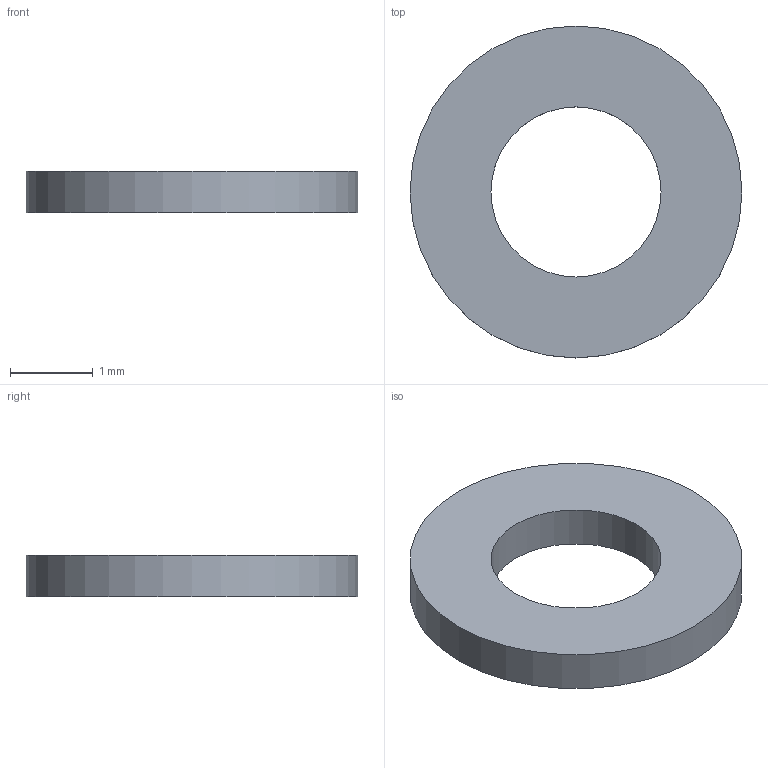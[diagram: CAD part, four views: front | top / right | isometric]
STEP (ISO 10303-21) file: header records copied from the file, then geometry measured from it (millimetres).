
FILE_DESCRIPTION(('Open CASCADE Model'),'2;1');
FILE_NAME('Open CASCADE Shape Model','2026-09-06T11:23:52',('Author'),( 'Open CASCADE'),'Open CASCADE STEP processor 7.7','Open CASCADE 7.7' ,'Unknown');
FILE_SCHEMA(('AUTOMOTIVE_DESIGN { 1 0 10303 214 1 1 1 1 }'));
Length unit declared in the file: millimetre
Products named in the file (1): Open CASCADE STEP translator 7.7 28
Bounding box: 4 x 4 x 0.5 mm (x, y, z)
Volume: 4.6 mm3; surface area: 28 mm2
Topology: 1 solids, 1 shells, 4 faces, 6 edges, 4 vertices
Faces by surface type: cylinder 2, plane 2
Full cylindrical faces by diameter (mm): 2.05 x1, 4 x1
Entity records: 192 total; most frequent: CARTESIAN_POINT 39, DIRECTION 30, ORIENTED_EDGE 12, PCURVE 12, DEFINITIONAL_REPRESENTATION 12, LINE 10, VECTOR 10, AXIS2_PLACEMENT_3D 9
